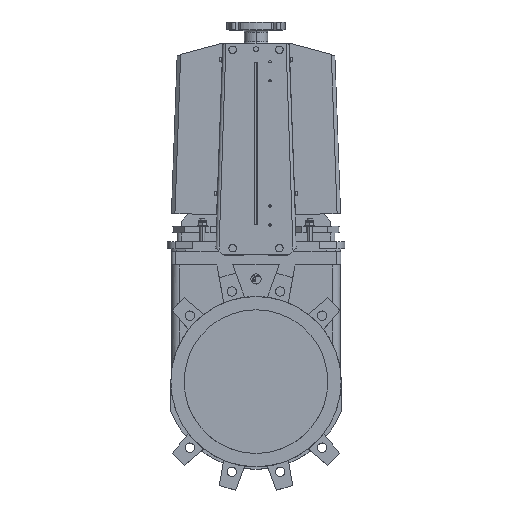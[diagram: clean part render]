
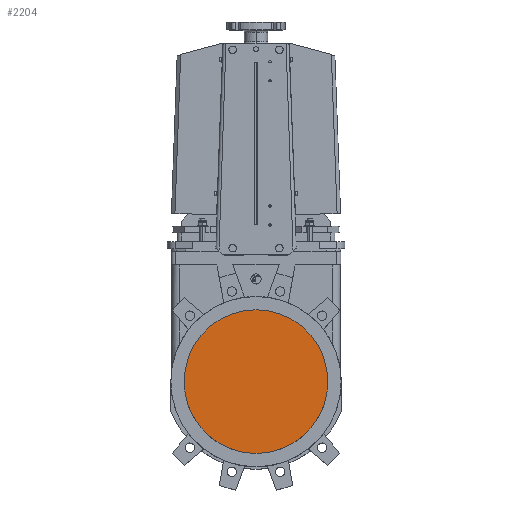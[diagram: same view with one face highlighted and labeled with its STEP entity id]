
A CAD part, top view. The second image highlights one B-rep face of the part: STEP entity #2204.
In plain terms, the highlighted planar face has unit normal (0, 0, 1).
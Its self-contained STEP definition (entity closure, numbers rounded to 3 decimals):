
#947 = VERTEX_POINT ( 'NONE', #6522 ) ;
#949 = EDGE_CURVE ( 'NONE', #950, #947, #6521, .T. ) ;
#950 = VERTEX_POINT ( 'NONE', #6516 ) ;
#2204 = ADVANCED_FACE ( 'NONE', ( #8053 ), #8051, .T. ) ;
#2205 = EDGE_LOOP ( 'NONE', ( #2206, #2208, #2209, #2268 ) ) ;
#2206 = ORIENTED_EDGE ( 'NONE', *, *, #2207, .T. ) ;
#2207 = EDGE_CURVE ( 'NONE', #2219, #950, #8052, .T. ) ;
#2208 = ORIENTED_EDGE ( 'NONE', *, *, #949, .T. ) ;
#2209 = ORIENTED_EDGE ( 'NONE', *, *, #2210, .F. ) ;
#2210 = EDGE_CURVE ( 'NONE', #2213, #947, #8043, .T. ) ;
#2213 = VERTEX_POINT ( 'NONE', #8039 ) ;
#2219 = VERTEX_POINT ( 'NONE', #8080 ) ;
#2221 = EDGE_CURVE ( 'NONE', #2213, #2219, #8074, .T. ) ;
#2268 = ORIENTED_EDGE ( 'NONE', *, *, #2221, .T. ) ;
#6516 = CARTESIAN_POINT ( 'NONE',  ( 160., 71.995, 5. ) ) ;
#6517 = DIRECTION ( 'NONE',  ( 1., 0., 0. ) ) ;
#6518 = DIRECTION ( 'NONE',  ( 0., 0., 1. ) ) ;
#6519 = CARTESIAN_POINT ( 'NONE',  ( 0., 0., 5. ) ) ;
#6520 = AXIS2_PLACEMENT_3D ( 'NONE', #6519, #6518, #6517 ) ;
#6521 = CIRCLE ( 'NONE', #6520, 175.452 ) ;
#6522 = CARTESIAN_POINT ( 'NONE',  ( -160., 71.995, 5. ) ) ;
#8039 = CARTESIAN_POINT ( 'NONE',  ( -160., -36.068, 5. ) ) ;
#8040 = DIRECTION ( 'NONE',  ( 0., 1., 0. ) ) ;
#8041 = VECTOR ( 'NONE', #8040, 1000. ) ;
#8042 = CARTESIAN_POINT ( 'NONE',  ( -160., -232.046, 5. ) ) ;
#8043 = LINE ( 'NONE', #8042, #8041 ) ;
#8044 = DIRECTION ( 'NONE',  ( 0., 1., 0. ) ) ;
#8045 = VECTOR ( 'NONE', #8044, 1000. ) ;
#8046 = CARTESIAN_POINT ( 'NONE',  ( 160., -232.046, 5. ) ) ;
#8047 = DIRECTION ( 'NONE',  ( 1., 0., 0. ) ) ;
#8048 = DIRECTION ( 'NONE',  ( 0., 0., 1. ) ) ;
#8049 = CARTESIAN_POINT ( 'NONE',  ( -160., -232.046, 5. ) ) ;
#8050 = AXIS2_PLACEMENT_3D ( 'NONE', #8049, #8048, #8047 ) ;
#8051 = PLANE ( 'NONE',  #8050 ) ;
#8052 = LINE ( 'NONE', #8046, #8045 ) ;
#8053 = FACE_OUTER_BOUND ( 'NONE', #2205, .T. ) ;
#8071 = DIRECTION ( 'NONE',  ( 1., 0., 0. ) ) ;
#8072 = DIRECTION ( 'NONE',  ( 0., 0., 1. ) ) ;
#8073 = AXIS2_PLACEMENT_3D ( 'NONE', #8082, #8072, #8071 ) ;
#8074 = CIRCLE ( 'NONE', #8073, 166.5 ) ;
#8080 = CARTESIAN_POINT ( 'NONE',  ( 160., -36.068, 5. ) ) ;
#8082 = CARTESIAN_POINT ( 'NONE',  ( 0., 10., 5. ) ) ;
